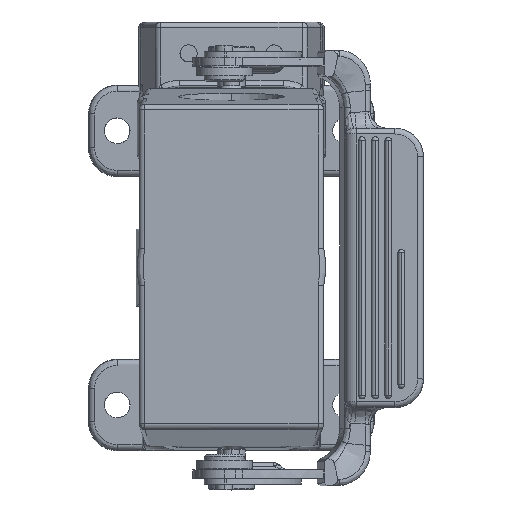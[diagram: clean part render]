
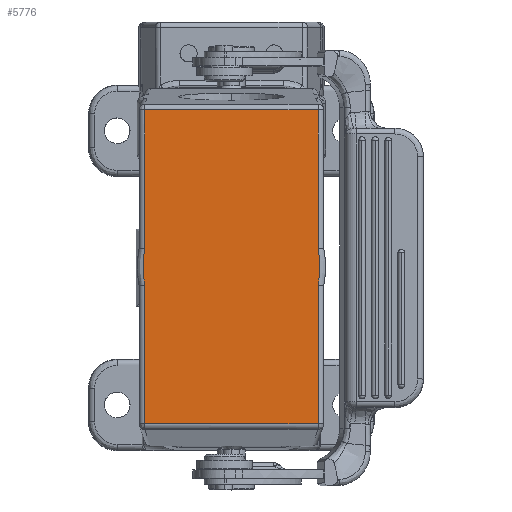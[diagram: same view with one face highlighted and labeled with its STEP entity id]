
A CAD part, top view. The second image highlights one B-rep face of the part: STEP entity #5776.
In plain terms, the highlighted planar face has unit normal (0, 0, 1).
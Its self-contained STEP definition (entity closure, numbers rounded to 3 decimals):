
#346 =( BOUNDED_CURVE ( )  B_SPLINE_CURVE ( 3, ( #47098, #2937, #62230, #32229 ),
 .UNSPECIFIED., .F., .F. ) 
 B_SPLINE_CURVE_WITH_KNOTS ( ( 4, 4 ),
 ( 0., 1. ),
 .UNSPECIFIED. ) 
 CURVE ( )  GEOMETRIC_REPRESENTATION_ITEM ( )  RATIONAL_B_SPLINE_CURVE ( ( 1., 0.986, 0.986, 1. ) ) 
 REPRESENTATION_ITEM ( '' )  );
#795 = CARTESIAN_POINT ( 'NONE',  ( 3.176, 15.171, 80.1 ) ) ;
#1862 = CARTESIAN_POINT ( 'NONE',  ( 1.074, 15.611, 80.1 ) ) ;
#2276 = EDGE_CURVE ( 'NONE', #3845, #41132, #30863, .T. ) ;
#2561 = CARTESIAN_POINT ( 'NONE',  ( 27.492, -15.171, 80.1 ) ) ;
#2937 = CARTESIAN_POINT ( 'NONE',  ( 1.074, -15.611, 80.1 ) ) ;
#3845 = VERTEX_POINT ( 'NONE', #795 ) ;
#3887 = EDGE_CURVE ( 'NONE', #31657, #36816, #60111, .T. ) ;
#5140 = EDGE_CURVE ( 'NONE', #33352, #3845, #63185, .T. ) ;
#5164 = EDGE_CURVE ( 'NONE', #58155, #50361, #40754, .T. ) ;
#5203 = CARTESIAN_POINT ( 'NONE',  ( -3.176, 15.171, 80.1 ) ) ;
#5776 = ADVANCED_FACE ( 'NONE', ( #29126 ), #29303, .F. ) ;
#6630 = CARTESIAN_POINT ( 'NONE',  ( -3.176, 15.171, 80.1 ) ) ;
#6684 = VECTOR ( 'NONE', #17342, 1000. ) ;
#7274 = DIRECTION ( 'NONE',  ( 1., 0., 0. ) ) ;
#7531 = ORIENTED_EDGE ( 'NONE', *, *, #48337, .F. ) ;
#9299 = VECTOR ( 'NONE', #7274, 1000. ) ;
#12574 = CARTESIAN_POINT ( 'NONE',  ( 3.176, -15.171, 80.1 ) ) ;
#14178 = DIRECTION ( 'NONE',  ( -1., 0., 0. ) ) ;
#14401 = VECTOR ( 'NONE', #43112, 1000. ) ;
#17342 = DIRECTION ( 'NONE',  ( 0., -1., 0. ) ) ;
#21717 = EDGE_CURVE ( 'NONE', #50361, #35551, #346, .T. ) ;
#22827 = CARTESIAN_POINT ( 'NONE',  ( -27.492, -15.171, 80.1 ) ) ;
#23298 = EDGE_CURVE ( 'NONE', #35551, #36816, #36952, .T. ) ;
#24367 = CARTESIAN_POINT ( 'NONE',  ( 27.492, -15.686, 80.1 ) ) ;
#25481 = ORIENTED_EDGE ( 'NONE', *, *, #5164, .F. ) ;
#27498 = LINE ( 'NONE', #61727, #14401 ) ;
#27648 = VECTOR ( 'NONE', #61993, 1000. ) ;
#28005 = AXIS2_PLACEMENT_3D ( 'NONE', #24367, #59100, #59752 ) ;
#28473 = EDGE_CURVE ( 'NONE', #31657, #33352, #27498, .T. ) ;
#29126 = FACE_OUTER_BOUND ( 'NONE', #39289, .T. ) ;
#29303 = PLANE ( 'NONE',  #28005 ) ;
#30863 = LINE ( 'NONE', #46859, #9299 ) ;
#31657 = VERTEX_POINT ( 'NONE', #56859 ) ;
#32204 = CARTESIAN_POINT ( 'NONE',  ( 0., -15.171, 80.1 ) ) ;
#32229 = CARTESIAN_POINT ( 'NONE',  ( -3.176, -15.171, 80.1 ) ) ;
#33352 = VERTEX_POINT ( 'NONE', #5203 ) ;
#34861 = ORIENTED_EDGE ( 'NONE', *, *, #21717, .F. ) ;
#35551 = VERTEX_POINT ( 'NONE', #40818 ) ;
#36816 = VERTEX_POINT ( 'NONE', #22827 ) ;
#36952 = LINE ( 'NONE', #43670, #51627 ) ;
#37490 = LINE ( 'NONE', #47472, #6684 ) ;
#39289 = EDGE_LOOP ( 'NONE', ( #34861, #25481, #7531, #47766, #56029, #45428, #40398, #58146 ) ) ;
#39492 = CARTESIAN_POINT ( 'NONE',  ( 27.492, 15.171, 80.1 ) ) ;
#39976 = DIRECTION ( 'NONE',  ( 0., -1., 0. ) ) ;
#40398 = ORIENTED_EDGE ( 'NONE', *, *, #3887, .T. ) ;
#40754 = LINE ( 'NONE', #32204, #27648 ) ;
#40818 = CARTESIAN_POINT ( 'NONE',  ( -3.176, -15.171, 80.1 ) ) ;
#41132 = VERTEX_POINT ( 'NONE', #39492 ) ;
#43112 = DIRECTION ( 'NONE',  ( 1., 0., 0. ) ) ;
#43670 = CARTESIAN_POINT ( 'NONE',  ( 0., -15.171, 80.1 ) ) ;
#45428 = ORIENTED_EDGE ( 'NONE', *, *, #28473, .F. ) ;
#45553 = CARTESIAN_POINT ( 'NONE',  ( 3.176, 15.171, 80.1 ) ) ;
#46859 = CARTESIAN_POINT ( 'NONE',  ( 0., 15.171, 80.1 ) ) ;
#47098 = CARTESIAN_POINT ( 'NONE',  ( 3.176, -15.171, 80.1 ) ) ;
#47472 = CARTESIAN_POINT ( 'NONE',  ( 27.492, 0., 80.1 ) ) ;
#47766 = ORIENTED_EDGE ( 'NONE', *, *, #2276, .F. ) ;
#48337 = EDGE_CURVE ( 'NONE', #41132, #58155, #37490, .T. ) ;
#50361 = VERTEX_POINT ( 'NONE', #12574 ) ;
#51627 = VECTOR ( 'NONE', #14178, 1000. ) ;
#54888 = CARTESIAN_POINT ( 'NONE',  ( -27.492, 0., 80.1 ) ) ;
#56029 = ORIENTED_EDGE ( 'NONE', *, *, #5140, .F. ) ;
#56859 = CARTESIAN_POINT ( 'NONE',  ( -27.492, 15.171, 80.1 ) ) ;
#58146 = ORIENTED_EDGE ( 'NONE', *, *, #23298, .F. ) ;
#58155 = VERTEX_POINT ( 'NONE', #2561 ) ;
#59100 = DIRECTION ( 'NONE',  ( 0., 0., -1. ) ) ;
#59752 = DIRECTION ( 'NONE',  ( -1., 0., 0. ) ) ;
#60111 = LINE ( 'NONE', #54888, #60917 ) ;
#60499 = CARTESIAN_POINT ( 'NONE',  ( -1.074, 15.611, 80.1 ) ) ;
#60917 = VECTOR ( 'NONE', #39976, 1000. ) ;
#61727 = CARTESIAN_POINT ( 'NONE',  ( 0., 15.171, 80.1 ) ) ;
#61993 = DIRECTION ( 'NONE',  ( -1., 0., 0. ) ) ;
#62230 = CARTESIAN_POINT ( 'NONE',  ( -1.074, -15.611, 80.1 ) ) ;
#63185 =( BOUNDED_CURVE ( )  B_SPLINE_CURVE ( 3, ( #6630, #60499, #1862, #45553 ),
 .UNSPECIFIED., .F., .F. ) 
 B_SPLINE_CURVE_WITH_KNOTS ( ( 4, 4 ),
 ( 0., 1. ),
 .UNSPECIFIED. ) 
 CURVE ( )  GEOMETRIC_REPRESENTATION_ITEM ( )  RATIONAL_B_SPLINE_CURVE ( ( 1., 0.986, 0.986, 1. ) ) 
 REPRESENTATION_ITEM ( '' )  );
